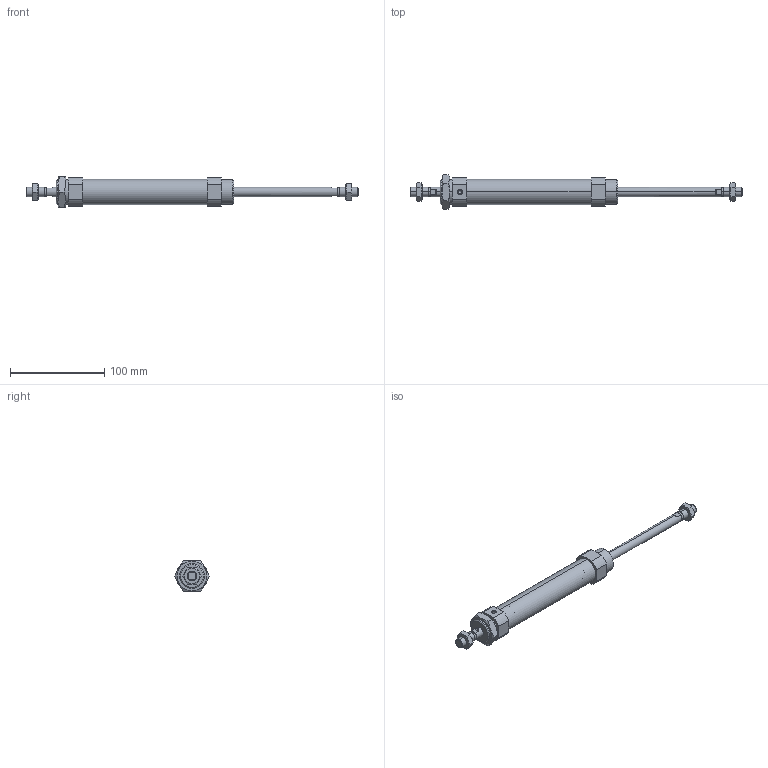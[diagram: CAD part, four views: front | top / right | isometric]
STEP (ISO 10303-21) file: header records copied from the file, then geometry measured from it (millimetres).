
FILE_DESCRIPTION (( 'STEP AP203' ), '1' );
FILE_NAME ('CSM2B25-100-P.STEP', '2020-07-20T16:43:24', ( '' ), ( '' ), 'SwSTEP 2.0', 'SolidWorks 2019', '' );
FILE_SCHEMA (( 'CONFIG_CONTROL_DESIGN' ));
Length unit declared in the file: millimetre
Products named in the file (1): CSM2B25-100-P
Bounding box: 352 x 36.95 x 32 mm (x, y, z)
Volume: 87213.5 mm3; surface area: 46426.9 mm2
Topology: 5 solids, 5 shells, 152 faces, 356 edges, 223 vertices
Faces by surface type: plane 62, cylinder 46, cone 44
Entity records: 5359 total; most frequent: CARTESIAN_POINT 1800, DIRECTION 738, ORIENTED_EDGE 708, EDGE_CURVE 354, AXIS2_PLACEMENT_3D 291, VERTEX_POINT 223, EDGE_LOOP 175, VECTOR 156
